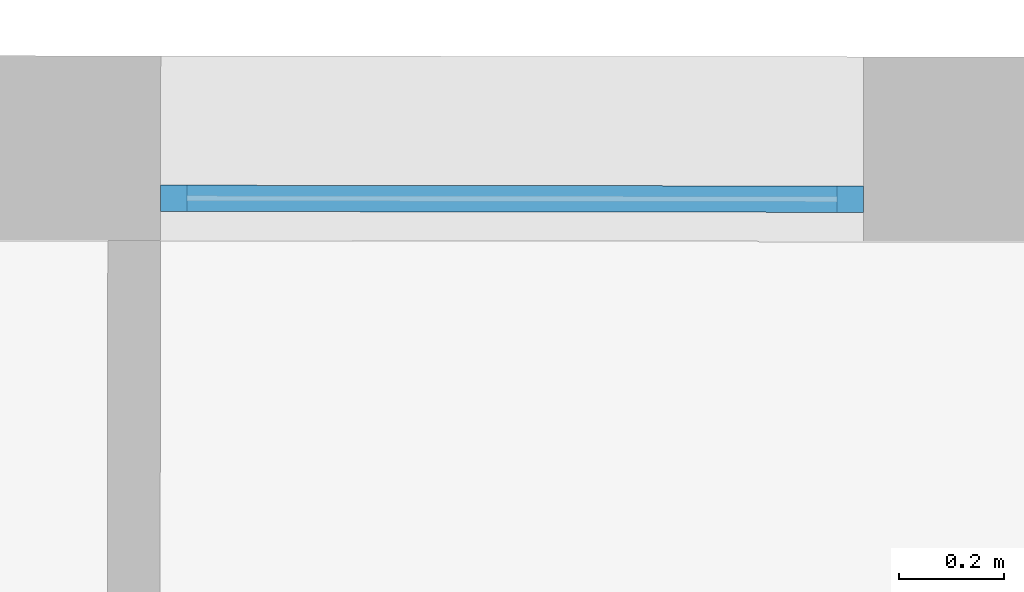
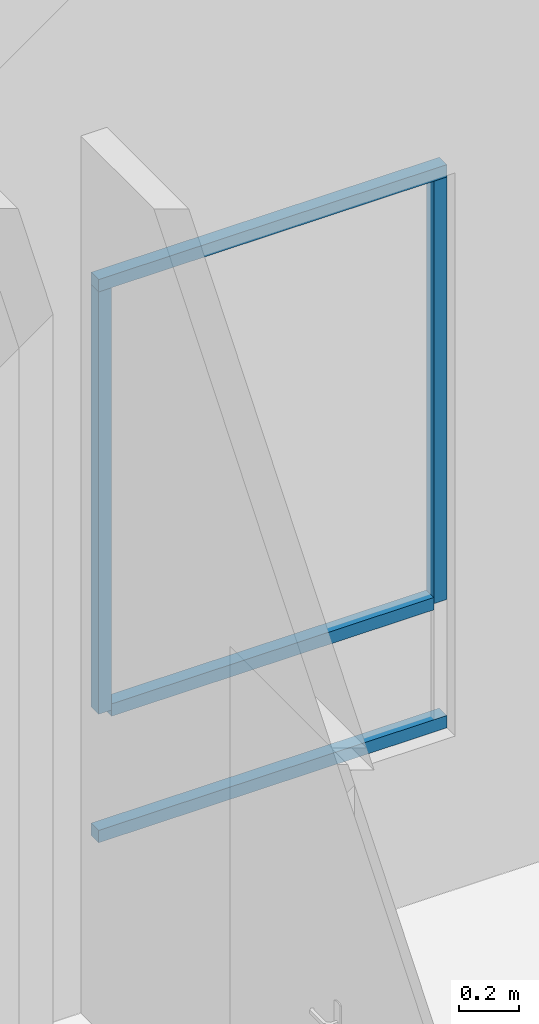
# One storey, part 13 of 35: 5 members, 1 element without a shape of its own.
"""IFC2X3 building model written with IfcOpenShell, lengths in metres."""

import ifcopenshell
import ifcopenshell.guid

model = None  # the IFC model being written
_history = None  # IfcOwnerHistory: only IFC2X3 demands one
_inside = {}  # id of a spatial element -> (the spatial element, [elements in it])
_under = {}  # id of a project, library or spatial element -> (it, [spatial elements below it])
_declared = {}  # id of a project -> (the project, [libraries it declares])
_typed = {}  # id of a type object -> (the type object, [elements of that type])
_made_of = {}  # id of a material, layer set ... -> (it, [elements and type objects made of it])


def new_model(schema):
    """Start an empty IFC model of exactly this schema.

    Asked for "IFC4X3", IfcOpenShell would pick the latest addendum, in which some entities
    have other attributes; the version numbers below select the first issue.
    IFC2X3 requires an IfcOwnerHistory on every rooted entity: one is made here for all.
    """
    global model, _history
    if schema == "IFC4X3":
        model = ifcopenshell.file(schema_version=(4, 3, 0, 0))
    else:
        model = ifcopenshell.file(schema=schema)
    _inside.clear()
    _under.clear()
    _declared.clear()
    _typed.clear()
    _made_of.clear()
    _history = None
    if model.schema == "IFC2X3":
        org = make("IfcOrganization", Name="unknown")
        user = make(
            "IfcPersonAndOrganization",
            ThePerson=make("IfcPerson", FamilyName="unknown"),
            TheOrganization=org,
        )
        app = make(
            "IfcApplication",
            ApplicationDeveloper=org,
            Version="unknown",
            ApplicationFullName="unknown",
            ApplicationIdentifier="unknown",
        )
        _history = make(
            "IfcOwnerHistory",
            OwningUser=user,
            OwningApplication=app,
            ChangeAction="ADDED",
            CreationDate=0,
        )
    return model


def make(cls, **values):
    """One entity of the class cls with the attributes given. An attribute that is None is left unset."""
    return model.create_entity(
        cls, **{name: value for name, value in values.items() if value is not None}
    )


def entity(cls, *values):
    """Any entity or typed value of the class cls, its attributes in the order of the schema. None: left unset."""
    e = model.create_entity(cls)
    for i, value in enumerate(values):
        if value is not None:
            e[i] = value
    return e


def rooted(cls, **values):
    """An entity with a GlobalId (a new one), such as an element, a storey or a relation."""
    return make(cls, GlobalId=ifcopenshell.guid.new(), OwnerHistory=_history, **values)


def si_unit(unit_type, name, prefix=None):
    """IfcSIUnit, for example si_unit("LENGTHUNIT", "METRE", prefix="MILLI")."""
    return make("IfcSIUnit", UnitType=unit_type, Prefix=prefix, Name=name)


def converted_unit(unit_type, name, factor, base, dimensions=None, offset=None):
    """IfcConversionBasedUnit, such as the inch: factor (a typed value) times the base unit."""
    return make(
        "IfcConversionBasedUnit"
        if offset is None
        else "IfcConversionBasedUnitWithOffset",
        ConversionOffset=offset,
        Dimensions=None
        if dimensions is None
        else entity("IfcDimensionalExponents", *dimensions),
        UnitType=unit_type,
        Name=name,
        ConversionFactor=make(
            "IfcMeasureWithUnit", ValueComponent=factor, UnitComponent=base
        ),
    )


def derived_unit(unit_type, elements):
    """IfcDerivedUnit: a product of units, each with its exponent."""
    return make(
        "IfcDerivedUnit",
        Elements=[
            make("IfcDerivedUnitElement", Unit=unit, Exponent=power)
            for unit, power in elements
        ],
        UnitType=unit_type,
    )


def assignment(units):
    """IfcUnitAssignment: the units of a project."""
    return None if units is None else make("IfcUnitAssignment", Units=units)


def point(xyz):
    """IfcCartesianPoint."""
    return None if xyz is None else make("IfcCartesianPoint", Coordinates=xyz)


def direction(xyz):
    """IfcDirection."""
    return None if xyz is None else make("IfcDirection", DirectionRatios=xyz)


def frame(location, z_axis=None, x_axis=None):
    """IfcAxis2Placement3D, a coordinate frame: its origin and axes. An axis left out is left unset."""
    return make(
        "IfcAxis2Placement3D",
        Location=point(location),
        Axis=direction(z_axis),
        RefDirection=direction(x_axis),
    )


def frame_2d(location, x_axis=None):
    """IfcAxis2Placement2D, a coordinate frame in the plane: its origin and x axis."""
    return make(
        "IfcAxis2Placement2D", Location=point(location), RefDirection=direction(x_axis)
    )


def origin():
    """The frame at (0, 0, 0) with its axes left unset."""
    return frame((0.0, 0.0, 0.0))


def origin_2d_with_axis():
    """The frame at (0, 0) in the plane with the x axis (1, 0) written out."""
    return frame_2d((0.0, 0.0), x_axis=(1.0, 0.0))


def place(relative_to, where):
    """IfcLocalPlacement: puts the frame where relative to a parent placement (None: the world)."""
    return make(
        "IfcLocalPlacement", PlacementRelTo=relative_to, RelativePlacement=where
    )


def context(
    kind, dimensions, precision=None, world=None, true_north=None, identifier=None
):
    """IfcGeometricRepresentationContext, for example the 3D "Model" context."""
    return make(
        "IfcGeometricRepresentationContext",
        ContextIdentifier=identifier,
        ContextType=kind,
        CoordinateSpaceDimension=dimensions,
        Precision=precision,
        WorldCoordinateSystem=world,
        TrueNorth=true_north,
    )


def subcontext(parent, identifier, kind, view, scale=None):
    """IfcGeometricRepresentationSubContext, for example "Body" below "Model"."""
    return make(
        "IfcGeometricRepresentationSubContext",
        ContextIdentifier=identifier,
        ContextType=kind,
        ParentContext=parent,
        TargetScale=scale,
        TargetView=view,
    )


def project(units=None, contexts=None):
    """IfcProject with its units and contexts."""
    return rooted(
        "IfcProject",
        Name="project",
        RepresentationContexts=contexts,
        UnitsInContext=assignment(units),
    )


def spatial(cls, under=None, at=None, **own):
    """A site, building, storey or space (cls), placed at a placement, below another one or the project."""
    s = rooted(cls, ObjectPlacement=at, **own)
    if under is not None:
        _under.setdefault(under.id(), (under, []))[1].append(s)
    return s


def profile(cls, at=None, kind="AREA", **sizes):
    """A parametric profile (cls). Its sizes go by their IFC names, for example OverallWidth=200.0."""
    return make(cls, ProfileType=kind, Position=at, **sizes)


def rectangle(**sizes):
    """IfcRectangleProfileDef."""
    return profile("IfcRectangleProfileDef", **sizes)


def extrude(swept, where, along, depth):
    """IfcExtrudedAreaSolid: the profile swept, set in the frame where, extruded along a direction by depth."""
    return make(
        "IfcExtrudedAreaSolid",
        SweptArea=swept,
        Position=where,
        ExtrudedDirection=direction(along),
        Depth=depth,
    )


def shape(context_of_items, identifier, shape_type, items):
    """IfcShapeRepresentation: the items that make up one representation, for example the "Body"."""
    return make(
        "IfcShapeRepresentation",
        ContextOfItems=context_of_items,
        RepresentationIdentifier=identifier,
        RepresentationType=shape_type,
        Items=items,
    )


def source(mapping_origin, context_of_items, identifier, shape_type, items):
    """IfcRepresentationMap: a shape defined once, which mapped items show again and again."""
    return make(
        "IfcRepresentationMap",
        MappingOrigin=mapping_origin,
        MappedRepresentation=shape(context_of_items, identifier, shape_type, items),
    )


def transform(
    local_origin,
    x_axis=None,
    y_axis=None,
    z_axis=None,
    scale=None,
    scale2=None,
    scale3=None,
    uniform=True,
):
    """IfcCartesianTransformationOperator3D, or its non-uniform kind. x_axis, y_axis, z_axis: its Axis1, 2, 3."""
    if uniform:
        return make(
            "IfcCartesianTransformationOperator3D",
            Axis1=direction(x_axis),
            Axis2=direction(y_axis),
            LocalOrigin=point(local_origin),
            Scale=scale,
            Axis3=direction(z_axis),
        )
    return make(
        "IfcCartesianTransformationOperator3DnonUniform",
        Axis1=direction(x_axis),
        Axis2=direction(y_axis),
        LocalOrigin=point(local_origin),
        Scale=scale,
        Axis3=direction(z_axis),
        Scale2=scale2,
        Scale3=scale3,
    )


def mapped(mapping_source, mapping_target):
    """IfcMappedItem: shows the shape of a source again, moved by a transform."""
    return make(
        "IfcMappedItem", MappingSource=mapping_source, MappingTarget=mapping_target
    )


def material(Name=None, Category=None):
    """IfcMaterial."""
    return make("IfcMaterial", Name=Name, Category=Category)


def made_of(thing, what):
    """Note that an element or type object is made of a material, layer set ...; save() writes the relation."""
    if what is not None:
        _made_of.setdefault(what.id(), (what, []))[1].append(thing)
    return thing


def type_object(cls, material=None, **own):
    """A type object (cls), such as IfcWallType, which elements share."""
    return made_of(rooted(cls, **own), material)


def type_shapes(of_type, sources):
    """Give a type object the sources (RepresentationMaps) that its elements show as mapped items."""
    of_type.RepresentationMaps = sources


def element(
    cls,
    number,
    at=None,
    inside=None,
    cuts=None,
    type_object=None,
    material=None,
    context=None,
    identifier="Body",
    shape_type=None,
    held_by="IfcProductDefinitionShape",
    body=None,
    shapes=None,
    **own,
):
    """One element of the class cls, such as IfcWall. Its Tag is "e" and its number.

    at: its placement. inside: the storey or other place that contains it. cuts: it is an
    opening in that element (IfcRelVoidsElement). A single representation is given by context,
    identifier, shape_type and body (its items); several are given by shapes. held_by: the class
    of the entity that holds the representations. save() writes the other relations.
    """
    e = rooted(cls, Tag="e%d" % number, ObjectPlacement=at, **own)
    if body is not None:
        shapes = [shape(context, identifier, shape_type, body)]
    if shapes is not None:
        e.Representation = make(held_by, Representations=shapes)
    if inside is not None:
        _inside.setdefault(inside.id(), (inside, []))[1].append(e)
    if cuts is not None:
        rooted(
            "IfcRelVoidsElement", RelatingBuildingElement=cuts, RelatedOpeningElement=e
        )
    if type_object is not None:
        _typed.setdefault(type_object.id(), (type_object, []))[1].append(e)
    return made_of(e, material)


def aggregate(whole, parts):
    """IfcRelAggregates: a whole, such as a stair, and the parts it consists of."""
    return rooted("IfcRelAggregates", RelatingObject=whole, RelatedObjects=parts)


def save(model, path):
    """Write the relations noted so far, then the file.

    IfcRelAggregates (storeys below a building ...), IfcRelContainedInSpatialStructure (elements
    in a storey), IfcRelDefinesByType, IfcRelAssociatesMaterial and IfcRelDeclares: one each for
    every whole, place, type object, material and project.
    """
    for whole, parts in _under.values():
        aggregate(whole, parts)
    for where, things in _inside.values():
        rooted(
            "IfcRelContainedInSpatialStructure",
            RelatedElements=things,
            RelatingStructure=where,
        )
    for kind, things in _typed.values():
        rooted("IfcRelDefinesByType", RelatedObjects=things, RelatingType=kind)
    for what, things in _made_of.values():
        rooted("IfcRelAssociatesMaterial", RelatedObjects=things, RelatingMaterial=what)
    for by, libraries in _declared.values():
        rooted("IfcRelDeclares", RelatingContext=by, RelatedDefinitions=libraries)
    model.write(path)


model = new_model("IFC2X3")

# Units and contexts
model_context = context("Model", 3, precision=1e-05, world=origin(), true_north=direction((6.123233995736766e-17, 1.0)))
body_context = subcontext(model_context, "Body", "Model", "MODEL_VIEW")
ifc_project = project(units=[si_unit("LENGTHUNIT", "METRE"), si_unit("AREAUNIT", "SQUARE_METRE"), converted_unit("PLANEANGLEUNIT", "DEGREE", entity("IfcPlaneAngleMeasure", 0.017453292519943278), si_unit("PLANEANGLEUNIT", "RADIAN"), dimensions=[0, 0, 0, 0, 0, 0, 0]), derived_unit("THERMALTRANSMITTANCEUNIT", [(si_unit("MASSUNIT", "GRAM", prefix="KILO"), 1), (si_unit("THERMODYNAMICTEMPERATUREUNIT", "KELVIN"), -1), (si_unit("TIMEUNIT", "SECOND"), -3)])], contexts=[model_context])

# Site, building, storey
site_placement = place(None, frame((1253.6752467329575, 2072.143113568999, 91.49999999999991), z_axis=(0.0, 0.0, 1.0), x_axis=(0.7237211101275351, 0.6900925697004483, 0.0)))
site = spatial("IfcSite", under=ifc_project, at=site_placement, Name="Surface", CompositionType="ELEMENT")
building_placement = place(site_placement, origin())
building = spatial("IfcBuilding", under=site, at=building_placement, CompositionType="ELEMENT")
storey_placement = place(building_placement, frame((0.0, 0.0, 3.549999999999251)))
storey = spatial("IfcBuildingStorey", under=building, at=storey_placement, Name="1-R+1", CompositionType="ELEMENT", Elevation=3.549999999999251)

# Curtain wall, members
curtain_wall_type = type_object("IfcCurtainWallType", Name="Mur-rideau:Menuiserie Ext 1F+1OB VERTIC", PredefinedType="NOTDEFINED")
curtain_wall_placement = place(storey_placement, frame((0.0, 0.0, -3.549999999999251)))
curtain_wall = element("IfcCurtainWall", 1, at=curtain_wall_placement, inside=storey, type_object=curtain_wall_type, Name="Mur-rideau:Menuiserie Ext 1F+1OB VERTIC", ObjectType="Mur-rideau:Menuiserie Ext 1F+1OB VERTIC")
ifc_material = material(Name="OMD_Aluminium Men Ext")
member_type_1 = type_object("IfcMemberType", Name="Meneau rectangulaire:50x50", PredefinedType="MULLION", material=ifc_material)
shared_shape_1 = source(origin(), body_context, "Body", "SweptSolid", [
    extrude(rectangle(XDim=0.05, YDim=0.05000000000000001, at=origin_2d_with_axis()), frame((-0.025, 0.0, -1.7099999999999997), z_axis=(0.0, 0.0, 1.0), x_axis=(-1.0, 0.0, 0.0)), (0.0, 0.0, 1.0), 1.7099999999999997),
])
type_shapes(member_type_1, [shared_shape_1])
member_1_placement = place(curtain_wall_placement, frame((196.96912088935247, -2.062015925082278, 6.399999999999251), z_axis=(0.0, 0.0, 1.0), x_axis=(0.7228702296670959, -0.6909838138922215, 0.0)))
member_1 = element("IfcMember", 2, at=member_1_placement, type_object=member_type_1, material=ifc_material, Name="Meneau rectangulaire:50x50", ObjectType="Meneau rectangulaire:50x50", context=body_context, shape_type="MappedRepresentation", body=[
    mapped(shared_shape_1, transform((0.0, 0.0, 0.0), scale=1.0)),
])
member_type_2 = type_object("IfcMemberType", Name="Meneau rectangulaire:50x50", PredefinedType="MULLION", material=ifc_material)
shared_shape_2 = source(origin(), body_context, "Body", "SweptSolid", [
    extrude(rectangle(XDim=0.05, YDim=0.049999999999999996, at=origin_2d_with_axis()), frame((-0.025, 0.0, -1.7099999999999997), z_axis=(0.0, 0.0, 1.0), x_axis=(-1.0, 0.0, 0.0)), (0.0, 0.0, 1.0), 1.7099999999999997),
])
type_shapes(member_type_2, [shared_shape_2])
member_2_placement = place(curtain_wall_placement, frame((196.00591095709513, -1.14129399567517, 4.689999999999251), z_axis=(0.0, 0.0, -1.0), x_axis=(-0.7228702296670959, 0.6909838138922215, 0.0)))
member_2 = element("IfcMember", 3, at=member_2_placement, type_object=member_type_2, material=ifc_material, Name="Meneau rectangulaire:50x50", ObjectType="Meneau rectangulaire:50x50", context=body_context, shape_type="MappedRepresentation", body=[
    mapped(shared_shape_2, transform((0.0, 0.0, 0.0), scale=1.0)),
])
member_type_3 = type_object("IfcMemberType", Name="Meneau rectangulaire:50x50", PredefinedType="MULLION", material=ifc_material)
shared_shape_3 = source(origin(), body_context, "Body", "SweptSolid", [
    extrude(rectangle(XDim=0.05, YDim=0.05000000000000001, at=origin_2d_with_axis()), frame((-0.025, 0.0, -1.3324797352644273), z_axis=(0.0, 0.0, 1.0), x_axis=(-1.0, 0.0, 0.0)), (0.0, 0.0, 1.0), 1.332479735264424),
])
type_shapes(member_type_3, [shared_shape_3])
member_3_placement = place(curtain_wall_placement, frame((196.00591095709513, -1.1412939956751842, 6.4499999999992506), z_axis=(-0.7228702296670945, 0.690983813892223, 0.0), x_axis=(0.0, 0.0, 1.0)))
member_3 = element("IfcMember", 4, at=member_3_placement, type_object=member_type_3, material=ifc_material, Name="Meneau rectangulaire:50x50", ObjectType="Meneau rectangulaire:50x50", context=body_context, shape_type="MappedRepresentation", body=[
    mapped(shared_shape_3, transform((0.0, 0.0, 0.0), scale=1.0)),
])
member_type_4 = type_object("IfcMemberType", Name="Meneau rectangulaire:50x50", PredefinedType="MULLION", material=ifc_material)
shared_shape_4 = source(origin(), body_context, "Body", "SweptSolid", [
    extrude(rectangle(XDim=0.05, YDim=0.05, at=origin_2d_with_axis()), frame((-0.025, 0.0, -1.3324797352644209), z_axis=(0.0, 0.0, 1.0), x_axis=(-1.0, 0.0, 0.0)), (0.0, 0.0, 1.0), 1.332479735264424),
])
type_shapes(member_type_4, [shared_shape_4])
member_4_placement = place(curtain_wall_placement, frame((196.96912088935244, -2.062015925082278, 4.169999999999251), z_axis=(0.7228702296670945, -0.690983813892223, 0.0), x_axis=(0.0, 0.0, -1.0)))
member_4 = element("IfcMember", 5, at=member_4_placement, type_object=member_type_4, material=ifc_material, Name="Meneau rectangulaire:50x50", ObjectType="Meneau rectangulaire:50x50", context=body_context, shape_type="MappedRepresentation", body=[
    mapped(shared_shape_4, transform((0.0, 0.0, 0.0), scale=1.0)),
])
member_type_5 = type_object("IfcMemberType", Name="Meneau rectangulaire:50x50", PredefinedType="MULLION", material=ifc_material)
shared_shape_5 = source(origin(), body_context, "Body", "SweptSolid", [
    extrude(rectangle(XDim=0.05, YDim=0.05, at=frame_2d((0.0, -1.734723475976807e-18), x_axis=(1.0, 0.0))), frame((0.0, 0.0, -1.232479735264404), z_axis=(0.0, 0.0, 1.0), x_axis=(-1.0, 0.0, 0.0)), (0.0, 0.0, 1.0), 1.2324797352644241),
])
type_shapes(member_type_5, [shared_shape_5])
member_5_placement = place(curtain_wall_placement, frame((196.04205446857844, -1.1758431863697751, 4.689999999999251), z_axis=(-0.7228702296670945, 0.690983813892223, 0.0), x_axis=(0.0, 0.0, 1.0)))
member_5 = element("IfcMember", 6, at=member_5_placement, type_object=member_type_5, material=ifc_material, Name="Meneau rectangulaire:50x50", ObjectType="Meneau rectangulaire:50x50", context=body_context, shape_type="MappedRepresentation", body=[
    mapped(shared_shape_5, transform((0.0, 0.0, 0.0), scale=1.0)),
])
aggregate(curtain_wall, [member_3, member_4, member_1, member_2, member_5])

save(model, "model.ifc")
